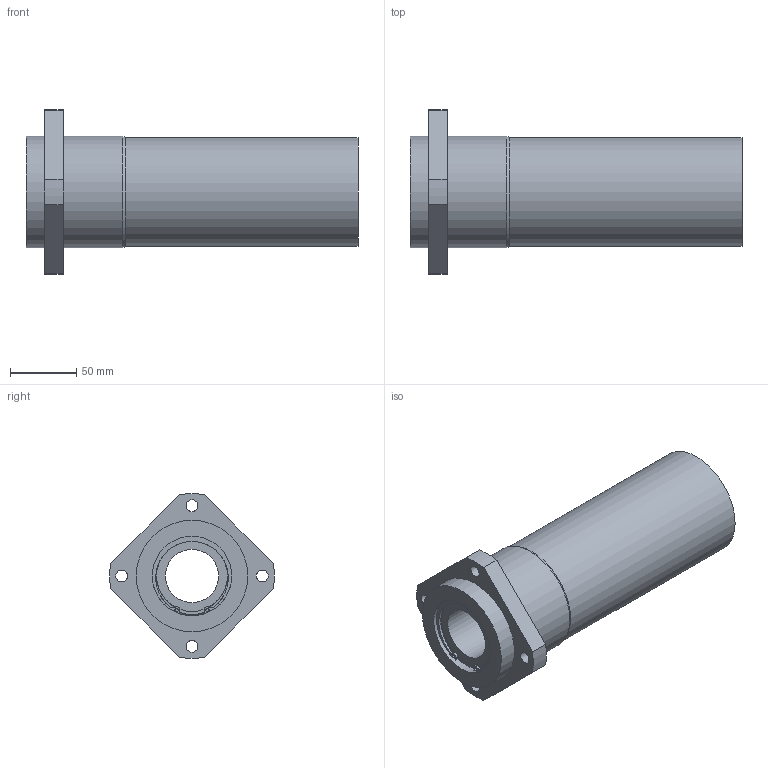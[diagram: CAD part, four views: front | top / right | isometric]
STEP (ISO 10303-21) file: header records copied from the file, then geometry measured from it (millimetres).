
FILE_DESCRIPTION((''),'2;1');
FILE_NAME('C:\Documents and Settings\土屋\My Documents\土屋移動用フォルダ\製品 (図面)\カタログ用3D\変換ファイル\OZAK_3D-CAD(STEP形式)\Part1.-Linear Bearings_ﾘﾆｱﾍﾞｱﾘﾝｸﾞ\09_Maintenance Free_ﾒｲﾝﾃﾅﾝｽﾌﾘｰ\L2017-09-22T14:10:14','2017-09-22T14:10:14',('y'),(''),'Autodesk Inventor 11','Autodesk Inventor 11','');
FILE_SCHEMA(('AUTOMOTIVE_DESIGN { 1 0 10303 214 1 1 1 1 }'));
Length unit declared in the file: millimetre
Products named in the file (1): LFWLB40AMF
Bounding box: 250 x 123.84 x 123.84 mm (x, y, z)
Volume: 1062893.3 mm3; surface area: 129330.8 mm2
Topology: 1 solids, 7 shells, 97 faces, 229 edges, 144 vertices
Faces by surface type: bspline 34, cylinder 32, plane 28, torus 2, cone 1
Full cylindrical faces by diameter (mm): 2.5 x2, 9 x4, 40 x2, 53.4 x2, 57 x2, 60 x8, 82 x1, 84 x2
Entity records: 2813 total; most frequent: CARTESIAN_POINT 754, DIRECTION 436, ORIENTED_EDGE 352, AXIS2_PLACEMENT_3D 196, EDGE_CURVE 176, EDGE_LOOP 166, CIRCLE 132, VERTEX_POINT 128
